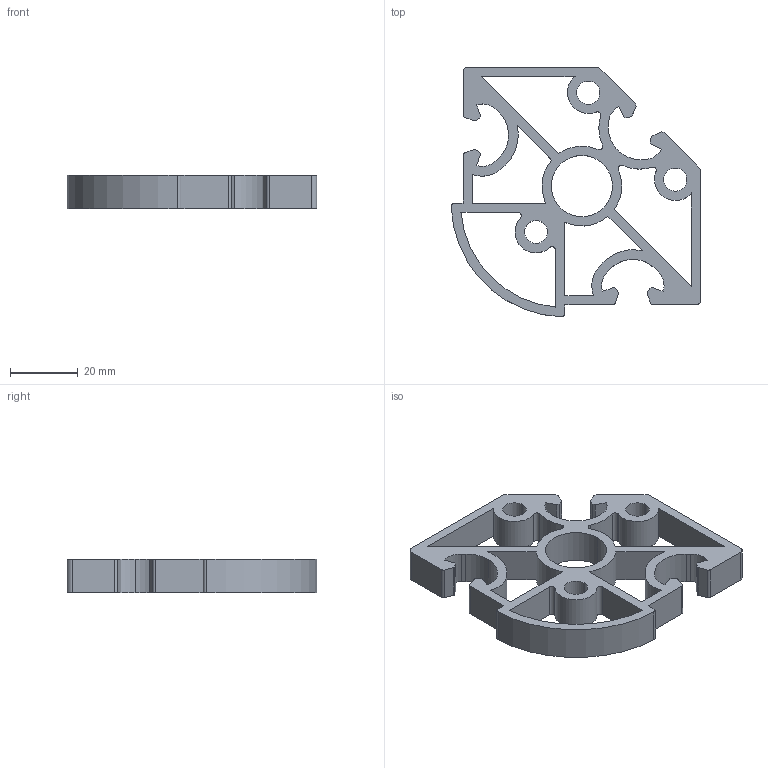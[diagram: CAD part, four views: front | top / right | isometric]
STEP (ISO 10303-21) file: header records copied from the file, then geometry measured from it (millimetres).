
FILE_DESCRIPTION (( 'STEP AP214' ), '1' );
FILE_NAME ('70x70 Clear 3-Slot 3-Way SD 3mm Panel Profiles.STEP', '2025-12-18T19:34:28', ( '' ), ( '' ), 'SwSTEP 2.0', 'SolidWorks 2025', '' );
FILE_SCHEMA (( 'AUTOMOTIVE_DESIGN' ));
Length unit declared in the file: millimetre
Products named in the file (1): 70x70 Clear 3-Slot 3-Way SD 3mm Panel Profiles
Bounding box: 73.48 x 73.48 x 10 mm (x, y, z)
Volume: 16830.3 mm3; surface area: 12978.3 mm2
Topology: 1 solids, 1 shells, 119 faces, 351 edges, 234 vertices
Faces by surface type: cylinder 61, plane 58
Entity records: 4066 total; most frequent: DIRECTION 713, CARTESIAN_POINT 705, ORIENTED_EDGE 702, EDGE_CURVE 351, AXIS2_PLACEMENT_3D 242, VERTEX_POINT 234, LINE 229, VECTOR 229
